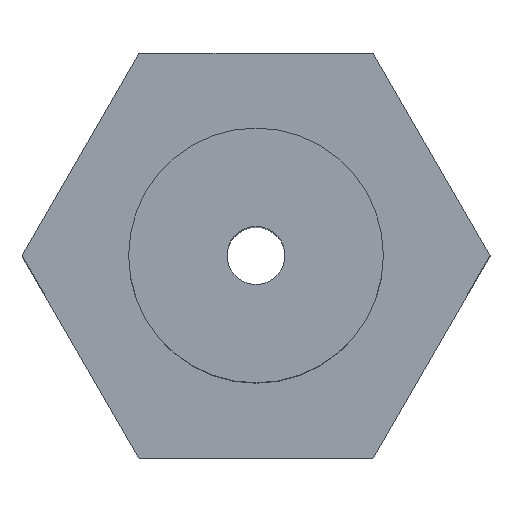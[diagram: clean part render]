
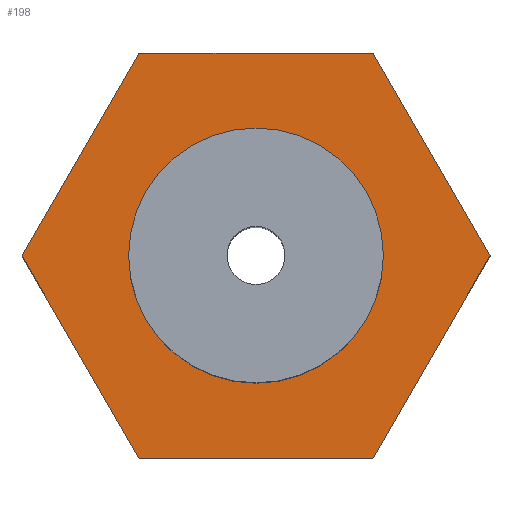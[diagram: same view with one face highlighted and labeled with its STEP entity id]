
A CAD part, top view. The second image highlights one B-rep face of the part: STEP entity #198.
In plain terms, the highlighted planar face has unit normal (0, 0, 1).
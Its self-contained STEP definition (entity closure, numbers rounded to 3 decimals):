
#3 = LINE ( 'NONE', #237, #336 ) ;
#7 = ORIENTED_EDGE ( 'NONE', *, *, #493, .T. ) ;
#13 = DIRECTION ( 'NONE',  ( -1., 0., 0. ) ) ;
#15 = VECTOR ( 'NONE', #186, 1000. ) ;
#38 = DIRECTION ( 'NONE',  ( 0., 0., 1. ) ) ;
#39 = DIRECTION ( 'NONE',  ( 1., 0., 0. ) ) ;
#41 = ORIENTED_EDGE ( 'NONE', *, *, #244, .F. ) ;
#43 = VECTOR ( 'NONE', #148, 1000. ) ;
#53 = EDGE_CURVE ( 'NONE', #569, #267, #500, .T. ) ;
#79 = CARTESIAN_POINT ( 'NONE',  ( -4.041, -7., 5. ) ) ;
#86 = CARTESIAN_POINT ( 'NONE',  ( 4.041, -7., 5. ) ) ;
#87 = CARTESIAN_POINT ( 'NONE',  ( 4.041, -7., 5. ) ) ;
#90 = EDGE_LOOP ( 'NONE', ( #128, #41 ) ) ;
#93 = LINE ( 'NONE', #192, #552 ) ;
#96 = PLANE ( 'NONE',  #140 ) ;
#107 = VECTOR ( 'NONE', #13, 1000. ) ;
#112 = CARTESIAN_POINT ( 'NONE',  ( 4.4, 0., 5. ) ) ;
#124 = CARTESIAN_POINT ( 'NONE',  ( 4.041, 7., 5. ) ) ;
#128 = ORIENTED_EDGE ( 'NONE', *, *, #507, .F. ) ;
#138 = VERTEX_POINT ( 'NONE', #87 ) ;
#140 = AXIS2_PLACEMENT_3D ( 'NONE', #145, #341, #622 ) ;
#143 = EDGE_LOOP ( 'NONE', ( #7, #383, #470, #150, #384, #527 ) ) ;
#145 = CARTESIAN_POINT ( 'NONE',  ( 0., 0., 5. ) ) ;
#148 = DIRECTION ( 'NONE',  ( -0.5, -0.866, 0. ) ) ;
#150 = ORIENTED_EDGE ( 'NONE', *, *, #533, .T. ) ;
#156 = CARTESIAN_POINT ( 'NONE',  ( 4.041, 7., 5. ) ) ;
#159 = DIRECTION ( 'NONE',  ( 0., 0., 1. ) ) ;
#160 = VERTEX_POINT ( 'NONE', #321 ) ;
#165 = CIRCLE ( 'NONE', #380, 4.4 ) ;
#186 = DIRECTION ( 'NONE',  ( 0.5, 0.866, 0. ) ) ;
#189 = VECTOR ( 'NONE', #39, 1000. ) ;
#191 = DIRECTION ( 'NONE',  ( -0.5, 0.866, 0. ) ) ;
#192 = CARTESIAN_POINT ( 'NONE',  ( -8.083, 0., 5. ) ) ;
#198 = ADVANCED_FACE ( 'NONE', ( #363, #472 ), #96, .T. ) ;
#200 = CARTESIAN_POINT ( 'NONE',  ( -4.041, 7., 5. ) ) ;
#202 = VERTEX_POINT ( 'NONE', #292 ) ;
#208 = EDGE_CURVE ( 'NONE', #202, #591, #93, .T. ) ;
#230 = CARTESIAN_POINT ( 'NONE',  ( 8.083, 0., 5. ) ) ;
#237 = CARTESIAN_POINT ( 'NONE',  ( 8.083, 0., 5. ) ) ;
#244 = EDGE_CURVE ( 'NONE', #266, #160, #165, .T. ) ;
#247 = DIRECTION ( 'NONE',  ( 1., 0., 0. ) ) ;
#266 = VERTEX_POINT ( 'NONE', #112 ) ;
#267 = VERTEX_POINT ( 'NONE', #499 ) ;
#292 = CARTESIAN_POINT ( 'NONE',  ( -8.083, 0., 5. ) ) ;
#310 = DIRECTION ( 'NONE',  ( 1., 0., 0. ) ) ;
#321 = CARTESIAN_POINT ( 'NONE',  ( -4.4, 0., 5. ) ) ;
#325 = EDGE_CURVE ( 'NONE', #365, #569, #3, .T. ) ;
#336 = VECTOR ( 'NONE', #191, 1000. ) ;
#341 = DIRECTION ( 'NONE',  ( 0., 0., 1. ) ) ;
#347 = LINE ( 'NONE', #200, #43 ) ;
#352 = CIRCLE ( 'NONE', #432, 4.4 ) ;
#363 = FACE_BOUND ( 'NONE', #90, .T. ) ;
#365 = VERTEX_POINT ( 'NONE', #230 ) ;
#380 = AXIS2_PLACEMENT_3D ( 'NONE', #544, #159, #310 ) ;
#383 = ORIENTED_EDGE ( 'NONE', *, *, #325, .T. ) ;
#384 = ORIENTED_EDGE ( 'NONE', *, *, #208, .T. ) ;
#421 = LINE ( 'NONE', #86, #15 ) ;
#432 = AXIS2_PLACEMENT_3D ( 'NONE', #567, #38, #247 ) ;
#470 = ORIENTED_EDGE ( 'NONE', *, *, #53, .T. ) ;
#472 = FACE_OUTER_BOUND ( 'NONE', #143, .T. ) ;
#473 = LINE ( 'NONE', #79, #189 ) ;
#478 = CARTESIAN_POINT ( 'NONE',  ( -4.041, -7., 5. ) ) ;
#493 = EDGE_CURVE ( 'NONE', #138, #365, #421, .T. ) ;
#499 = CARTESIAN_POINT ( 'NONE',  ( -4.041, 7., 5. ) ) ;
#500 = LINE ( 'NONE', #156, #107 ) ;
#507 = EDGE_CURVE ( 'NONE', #160, #266, #352, .T. ) ;
#527 = ORIENTED_EDGE ( 'NONE', *, *, #572, .T. ) ;
#533 = EDGE_CURVE ( 'NONE', #267, #202, #347, .T. ) ;
#544 = CARTESIAN_POINT ( 'NONE',  ( 0., 0., 5. ) ) ;
#552 = VECTOR ( 'NONE', #578, 1000. ) ;
#567 = CARTESIAN_POINT ( 'NONE',  ( 0., 0., 5. ) ) ;
#569 = VERTEX_POINT ( 'NONE', #124 ) ;
#572 = EDGE_CURVE ( 'NONE', #591, #138, #473, .T. ) ;
#578 = DIRECTION ( 'NONE',  ( 0.5, -0.866, 0. ) ) ;
#591 = VERTEX_POINT ( 'NONE', #478 ) ;
#622 = DIRECTION ( 'NONE',  ( 1., 0., 0. ) ) ;
